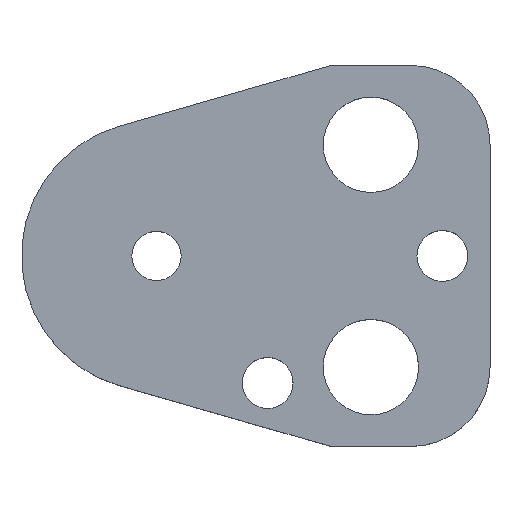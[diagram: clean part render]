
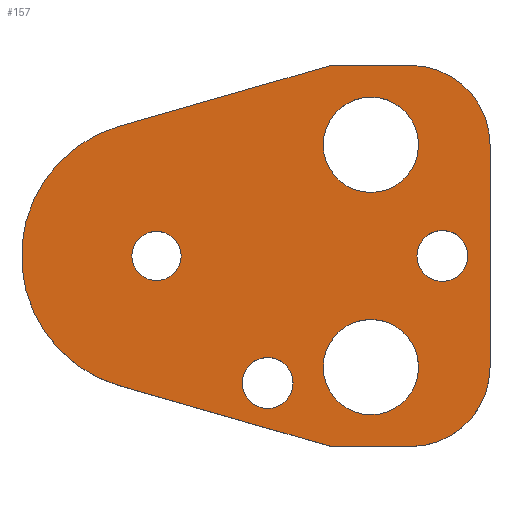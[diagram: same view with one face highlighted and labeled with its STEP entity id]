
A CAD part, top view. The second image highlights one B-rep face of the part: STEP entity #157.
In plain terms, the highlighted planar face has unit normal (0, 0, 1).
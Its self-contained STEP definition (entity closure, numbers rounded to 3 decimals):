
#103=FACE_BOUND('',#207,.T.);
#104=FACE_BOUND('',#208,.T.);
#105=FACE_BOUND('',#209,.T.);
#106=FACE_BOUND('',#210,.T.);
#107=FACE_BOUND('',#211,.T.);
#108=FACE_BOUND('',#212,.T.);
#122=CIRCLE('',#480,10.);
#124=CIRCLE('',#484,10.);
#127=CIRCLE('',#490,17.);
#138=CIRCLE('',#503,3.2);
#139=CIRCLE('',#504,3.2);
#140=CIRCLE('',#505,6.);
#141=CIRCLE('',#506,6.);
#142=CIRCLE('',#507,6.);
#143=CIRCLE('',#508,6.);
#144=CIRCLE('',#509,3.2);
#145=CIRCLE('',#510,3.2);
#146=CIRCLE('',#511,3.1);
#147=CIRCLE('',#512,3.1);
#157=ADVANCED_FACE('',(#103,#104,#105,#106,#107,#108),#174,.T.);
#174=PLANE('',#513);
#207=EDGE_LOOP('',(#273,#274,#275,#276,#277,#278,#279,#280));
#208=EDGE_LOOP('',(#281,#282));
#209=EDGE_LOOP('',(#283,#284));
#210=EDGE_LOOP('',(#285,#286));
#211=EDGE_LOOP('',(#287,#288));
#212=EDGE_LOOP('',(#289,#290));
#273=ORIENTED_EDGE('',*,*,#368,.T.);
#274=ORIENTED_EDGE('',*,*,#372,.T.);
#275=ORIENTED_EDGE('',*,*,#375,.T.);
#276=ORIENTED_EDGE('',*,*,#378,.T.);
#277=ORIENTED_EDGE('',*,*,#381,.T.);
#278=ORIENTED_EDGE('',*,*,#384,.T.);
#279=ORIENTED_EDGE('',*,*,#387,.T.);
#280=ORIENTED_EDGE('',*,*,#390,.T.);
#281=ORIENTED_EDGE('',*,*,#401,.T.);
#282=ORIENTED_EDGE('',*,*,#402,.T.);
#283=ORIENTED_EDGE('',*,*,#403,.T.);
#284=ORIENTED_EDGE('',*,*,#404,.T.);
#285=ORIENTED_EDGE('',*,*,#405,.T.);
#286=ORIENTED_EDGE('',*,*,#406,.T.);
#287=ORIENTED_EDGE('',*,*,#407,.T.);
#288=ORIENTED_EDGE('',*,*,#408,.T.);
#289=ORIENTED_EDGE('',*,*,#409,.T.);
#290=ORIENTED_EDGE('',*,*,#410,.T.);
#332=VERTEX_POINT('',#649);
#333=VERTEX_POINT('',#651);
#336=VERTEX_POINT('',#658);
#338=VERTEX_POINT('',#664);
#340=VERTEX_POINT('',#670);
#342=VERTEX_POINT('',#676);
#344=VERTEX_POINT('',#682);
#346=VERTEX_POINT('',#688);
#357=VERTEX_POINT('',#717);
#358=VERTEX_POINT('',#718);
#359=VERTEX_POINT('',#721);
#360=VERTEX_POINT('',#722);
#361=VERTEX_POINT('',#725);
#362=VERTEX_POINT('',#726);
#363=VERTEX_POINT('',#729);
#364=VERTEX_POINT('',#730);
#365=VERTEX_POINT('',#733);
#366=VERTEX_POINT('',#734);
#368=EDGE_CURVE('',#333,#332,#422,.T.);
#372=EDGE_CURVE('',#332,#336,#426,.T.);
#375=EDGE_CURVE('',#336,#338,#122,.T.);
#378=EDGE_CURVE('',#338,#340,#430,.T.);
#381=EDGE_CURVE('',#340,#342,#124,.T.);
#384=EDGE_CURVE('',#342,#344,#434,.T.);
#387=EDGE_CURVE('',#344,#346,#437,.T.);
#390=EDGE_CURVE('',#346,#333,#127,.T.);
#401=EDGE_CURVE('',#357,#358,#138,.T.);
#402=EDGE_CURVE('',#358,#357,#139,.T.);
#403=EDGE_CURVE('',#359,#360,#140,.T.);
#404=EDGE_CURVE('',#360,#359,#141,.T.);
#405=EDGE_CURVE('',#361,#362,#142,.T.);
#406=EDGE_CURVE('',#362,#361,#143,.T.);
#407=EDGE_CURVE('',#363,#364,#144,.T.);
#408=EDGE_CURVE('',#364,#363,#145,.T.);
#409=EDGE_CURVE('',#365,#366,#146,.T.);
#410=EDGE_CURVE('',#366,#365,#147,.T.);
#422=LINE('',#650,#450);
#426=LINE('',#659,#454);
#430=LINE('',#671,#458);
#434=LINE('',#683,#462);
#437=LINE('',#689,#465);
#450=VECTOR('',#527,1.);
#454=VECTOR('',#533,1.);
#458=VECTOR('',#545,1.);
#462=VECTOR('',#557,1.);
#465=VECTOR('',#562,1.);
#480=AXIS2_PLACEMENT_3D('',#665,#538,#539);
#484=AXIS2_PLACEMENT_3D('',#677,#550,#551);
#490=AXIS2_PLACEMENT_3D('',#693,#568,#569);
#503=AXIS2_PLACEMENT_3D('',#716,#594,#595);
#504=AXIS2_PLACEMENT_3D('',#719,#596,#597);
#505=AXIS2_PLACEMENT_3D('',#720,#598,#599);
#506=AXIS2_PLACEMENT_3D('',#723,#600,#601);
#507=AXIS2_PLACEMENT_3D('',#724,#602,#603);
#508=AXIS2_PLACEMENT_3D('',#727,#604,#605);
#509=AXIS2_PLACEMENT_3D('',#728,#606,#607);
#510=AXIS2_PLACEMENT_3D('',#731,#608,#609);
#511=AXIS2_PLACEMENT_3D('',#732,#610,#611);
#512=AXIS2_PLACEMENT_3D('',#735,#612,#613);
#513=AXIS2_PLACEMENT_3D('',#736,#614,#615);
#527=DIRECTION('',(0.961,-0.276,0.));
#533=DIRECTION('',(1.,0.,0.));
#538=DIRECTION('',(0.,0.,1.));
#539=DIRECTION('',(-0.707,0.707,0.));
#545=DIRECTION('',(0.,1.,0.));
#550=DIRECTION('',(0.,0.,1.));
#551=DIRECTION('',(-0.707,-0.707,0.));
#557=DIRECTION('',(-1.,0.,0.));
#562=DIRECTION('',(-0.961,-0.276,0.));
#568=DIRECTION('',(0.,0.,1.));
#569=DIRECTION('',(1.,0.,0.));
#594=DIRECTION('',(0.,0.,-1.));
#595=DIRECTION('',(-1.,0.,0.));
#596=DIRECTION('',(0.,0.,-1.));
#597=DIRECTION('',(1.,0.,0.));
#598=DIRECTION('',(0.,0.,-1.));
#599=DIRECTION('',(-1.,0.,0.));
#600=DIRECTION('',(0.,0.,-1.));
#601=DIRECTION('',(1.,0.,0.));
#602=DIRECTION('',(0.,0.,-1.));
#603=DIRECTION('',(-1.,0.,0.));
#604=DIRECTION('',(0.,0.,-1.));
#605=DIRECTION('',(1.,0.,0.));
#606=DIRECTION('',(0.,0.,-1.));
#607=DIRECTION('',(-1.,0.,0.));
#608=DIRECTION('',(0.,0.,-1.));
#609=DIRECTION('',(1.,0.,0.));
#610=DIRECTION('',(0.,0.,-1.));
#611=DIRECTION('',(-1.,0.,0.));
#612=DIRECTION('',(0.,0.,-1.));
#613=DIRECTION('',(1.,0.,0.));
#614=DIRECTION('',(0.,0.,1.));
#615=DIRECTION('',(0.961,-0.276,0.));
#649=CARTESIAN_POINT('',(22.,-24.,9.));
#650=CARTESIAN_POINT('',(22.,-24.,9.));
#651=CARTESIAN_POINT('',(-4.69,-16.34,9.));
#658=CARTESIAN_POINT('',(32.,-24.,9.));
#659=CARTESIAN_POINT('',(22.,-24.,9.));
#664=CARTESIAN_POINT('',(42.,-14.,9.));
#665=CARTESIAN_POINT('',(32.,-14.,9.));
#670=CARTESIAN_POINT('',(42.,14.,9.));
#671=CARTESIAN_POINT('',(42.,14.,9.));
#676=CARTESIAN_POINT('',(32.,24.,9.));
#677=CARTESIAN_POINT('',(32.,14.,9.));
#682=CARTESIAN_POINT('',(22.,24.,9.));
#683=CARTESIAN_POINT('',(22.,24.,9.));
#688=CARTESIAN_POINT('',(-4.69,16.34,9.));
#689=CARTESIAN_POINT('',(22.,24.,9.));
#693=CARTESIAN_POINT('',(0.,0.,9.));
#716=CARTESIAN_POINT('',(36.,0.,9.));
#717=CARTESIAN_POINT('',(36.,3.2,9.));
#718=CARTESIAN_POINT('',(36.,-3.2,9.));
#719=CARTESIAN_POINT('',(36.,0.,9.));
#720=CARTESIAN_POINT('',(27.,14.,9.));
#721=CARTESIAN_POINT('',(27.,20.,9.));
#722=CARTESIAN_POINT('',(27.,8.,9.));
#723=CARTESIAN_POINT('',(27.,14.,9.));
#724=CARTESIAN_POINT('',(27.,-14.,9.));
#725=CARTESIAN_POINT('',(27.,-8.,9.));
#726=CARTESIAN_POINT('',(27.,-20.,9.));
#727=CARTESIAN_POINT('',(27.,-14.,9.));
#728=CARTESIAN_POINT('',(14.,-16.,9.));
#729=CARTESIAN_POINT('',(14.,-12.8,9.));
#730=CARTESIAN_POINT('',(14.,-19.2,9.));
#731=CARTESIAN_POINT('',(14.,-16.,9.));
#732=CARTESIAN_POINT('',(0.,0.,9.));
#733=CARTESIAN_POINT('',(0.,3.1,9.));
#734=CARTESIAN_POINT('',(0.,-3.1,9.));
#735=CARTESIAN_POINT('',(0.,0.,9.));
#736=CARTESIAN_POINT('',(-4.69,-16.34,9.));
